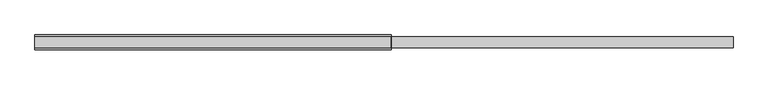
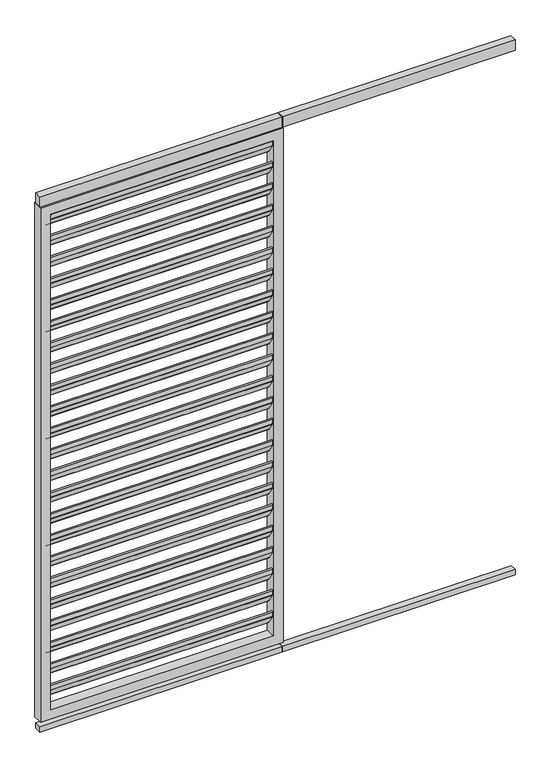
"""IFC4 building model written with IfcOpenShell, lengths in millimetres: proxy geometry, Renson_Camargue_Loggia_Paro_Aluminium : Renson_Camargue_Loggia_Paro_Aluminium."""

from ifc_helpers import new_model, si_unit, point, frame, frame_2d, origin, origin_with_axes, place, context, project, spatial, polyline, circle_curve, trimmed, segment, composite_curve, outline, extrude, source, transform, mapped, element, save


def generic_models_8f5adf67(model_context):
    return source(origin(), model_context, "Body", "SweptSolid", [
        extrude(outline(composite_curve([segment(polyline([(-10.1515804, 2164.292689), (14.3324079, 2126.5906532), (14.3324079, 2107.3412281)]), True, "CONTINUOUS"), segment(trimmed(circle_curve(frame_2d((11.3324079, 2107.3412281)), 3.0), [point((14.3324079, 2107.3412281))], [point((8.8163962, 2105.707311))], False, "CARTESIAN"), True, "CONTINUOUS"), segment(polyline([(8.8163962, 2105.707311), (-15.1836038, 2142.6640702)]), True, "CONTINUOUS"), segment(trimmed(circle_curve(frame_2d((-12.6675921, 2144.2979873)), 3.0), [point((-15.1836038, 2142.6640702))], [point((-15.6675921, 2144.2979873))], False, "CARTESIAN"), True, "CONTINUOUS"), segment(polyline([(-15.6675921, 2144.2979873), (-15.6675921, 2162.6587719)]), True, "CONTINUOUS"), segment(trimmed(circle_curve(frame_2d((-12.6675921, 2162.6587719)), 3.0), [point((-15.6675921, 2162.6587719))], [point((-10.1515804, 2164.292689))], False, "CARTESIAN"), True, "CONTINUOUS")], self_intersect=False)), frame((-442.5, 0.0, 0.0), z_axis=(1.0, 0.0, 0.0), x_axis=(0.0, 1.0, 0.0)), (0.0, 0.0, 1.0), 885.0),
        extrude(outline(composite_curve([segment(polyline([(-10.1515804, 2074.292689), (14.3324079, 2036.5906532), (14.3324079, 2017.3412281)]), True, "CONTINUOUS"), segment(trimmed(circle_curve(frame_2d((11.3324079, 2017.3412281)), 3.0), [point((14.3324079, 2017.3412281))], [point((8.8163962, 2015.707311))], False, "CARTESIAN"), True, "CONTINUOUS"), segment(polyline([(8.8163962, 2015.707311), (-15.1836038, 2052.6640702)]), True, "CONTINUOUS"), segment(trimmed(circle_curve(frame_2d((-12.6675921, 2054.2979873)), 3.0), [point((-15.1836038, 2052.6640702))], [point((-15.6675921, 2054.2979873))], False, "CARTESIAN"), True, "CONTINUOUS"), segment(polyline([(-15.6675921, 2054.2979873), (-15.6675921, 2072.6587719)]), True, "CONTINUOUS"), segment(trimmed(circle_curve(frame_2d((-12.6675921, 2072.6587719)), 3.0), [point((-15.6675921, 2072.6587719))], [point((-10.1515804, 2074.292689))], False, "CARTESIAN"), True, "CONTINUOUS")], self_intersect=False)), frame((-442.5, 0.0, 0.0), z_axis=(1.0, 0.0, 0.0), x_axis=(0.0, 1.0, 0.0)), (0.0, 0.0, 1.0), 885.0),
        extrude(outline(composite_curve([segment(polyline([(-10.1515804, 1984.292689), (14.3324079, 1946.5906532), (14.3324079, 1927.3412281)]), True, "CONTINUOUS"), segment(trimmed(circle_curve(frame_2d((11.3324079, 1927.3412281)), 3.0), [point((14.3324079, 1927.3412281))], [point((8.8163962, 1925.707311))], False, "CARTESIAN"), True, "CONTINUOUS"), segment(polyline([(8.8163962, 1925.707311), (-15.1836038, 1962.6640702)]), True, "CONTINUOUS"), segment(trimmed(circle_curve(frame_2d((-12.6675921, 1964.2979873)), 3.0), [point((-15.1836038, 1962.6640702))], [point((-15.6675921, 1964.2979873))], False, "CARTESIAN"), True, "CONTINUOUS"), segment(polyline([(-15.6675921, 1964.2979873), (-15.6675921, 1982.6587719)]), True, "CONTINUOUS"), segment(trimmed(circle_curve(frame_2d((-12.6675921, 1982.6587719)), 3.0), [point((-15.6675921, 1982.6587719))], [point((-10.1515804, 1984.292689))], False, "CARTESIAN"), True, "CONTINUOUS")], self_intersect=False)), frame((-442.5, 0.0, 0.0), z_axis=(1.0, 0.0, 0.0), x_axis=(0.0, 1.0, 0.0)), (0.0, 0.0, 1.0), 885.0),
        extrude(outline(composite_curve([segment(polyline([(-10.1515804, 1894.292689), (14.3324079, 1856.5906532), (14.3324079, 1837.3412281)]), True, "CONTINUOUS"), segment(trimmed(circle_curve(frame_2d((11.3324079, 1837.3412281)), 3.0), [point((14.3324079, 1837.3412281))], [point((8.8163962, 1835.707311))], False, "CARTESIAN"), True, "CONTINUOUS"), segment(polyline([(8.8163962, 1835.707311), (-15.1836038, 1872.6640702)]), True, "CONTINUOUS"), segment(trimmed(circle_curve(frame_2d((-12.6675921, 1874.2979873)), 3.0), [point((-15.1836038, 1872.6640702))], [point((-15.6675921, 1874.2979873))], False, "CARTESIAN"), True, "CONTINUOUS"), segment(polyline([(-15.6675921, 1874.2979873), (-15.6675921, 1892.6587719)]), True, "CONTINUOUS"), segment(trimmed(circle_curve(frame_2d((-12.6675921, 1892.6587719)), 3.0), [point((-15.6675921, 1892.6587719))], [point((-10.1515804, 1894.292689))], False, "CARTESIAN"), True, "CONTINUOUS")], self_intersect=False)), frame((-442.5, 0.0, 0.0), z_axis=(1.0, 0.0, 0.0), x_axis=(0.0, 1.0, 0.0)), (0.0, 0.0, 1.0), 885.0),
        extrude(outline(composite_curve([segment(polyline([(-10.1515804, 1804.292689), (14.3324079, 1766.5906532), (14.3324079, 1747.3412281)]), True, "CONTINUOUS"), segment(trimmed(circle_curve(frame_2d((11.3324079, 1747.3412281)), 3.0), [point((14.3324079, 1747.3412281))], [point((8.8163962, 1745.707311))], False, "CARTESIAN"), True, "CONTINUOUS"), segment(polyline([(8.8163962, 1745.707311), (-15.1836038, 1782.6640702)]), True, "CONTINUOUS"), segment(trimmed(circle_curve(frame_2d((-12.6675921, 1784.2979873)), 3.0), [point((-15.1836038, 1782.6640702))], [point((-15.6675921, 1784.2979873))], False, "CARTESIAN"), True, "CONTINUOUS"), segment(polyline([(-15.6675921, 1784.2979873), (-15.6675921, 1802.6587719)]), True, "CONTINUOUS"), segment(trimmed(circle_curve(frame_2d((-12.6675921, 1802.6587719)), 3.0), [point((-15.6675921, 1802.6587719))], [point((-10.1515804, 1804.292689))], False, "CARTESIAN"), True, "CONTINUOUS")], self_intersect=False)), frame((-442.5, 0.0, 0.0), z_axis=(1.0, 0.0, 0.0), x_axis=(0.0, 1.0, 0.0)), (0.0, 0.0, 1.0), 885.0),
        extrude(outline(composite_curve([segment(polyline([(-10.1515804, 1714.292689), (14.3324079, 1676.5906532), (14.3324079, 1657.3412281)]), True, "CONTINUOUS"), segment(trimmed(circle_curve(frame_2d((11.3324079, 1657.3412281)), 3.0), [point((14.3324079, 1657.3412281))], [point((8.8163962, 1655.707311))], False, "CARTESIAN"), True, "CONTINUOUS"), segment(polyline([(8.8163962, 1655.707311), (-15.1836038, 1692.6640702)]), True, "CONTINUOUS"), segment(trimmed(circle_curve(frame_2d((-12.6675921, 1694.2979873)), 3.0), [point((-15.1836038, 1692.6640702))], [point((-15.6675921, 1694.2979873))], False, "CARTESIAN"), True, "CONTINUOUS"), segment(polyline([(-15.6675921, 1694.2979873), (-15.6675921, 1712.6587719)]), True, "CONTINUOUS"), segment(trimmed(circle_curve(frame_2d((-12.6675921, 1712.6587719)), 3.0), [point((-15.6675921, 1712.6587719))], [point((-10.1515804, 1714.292689))], False, "CARTESIAN"), True, "CONTINUOUS")], self_intersect=False)), frame((-442.5, 0.0, 0.0), z_axis=(1.0, 0.0, 0.0), x_axis=(0.0, 1.0, 0.0)), (0.0, 0.0, 1.0), 885.0),
        extrude(outline(composite_curve([segment(polyline([(-10.1515804, 1624.292689), (14.3324079, 1586.5906532), (14.3324079, 1567.3412281)]), True, "CONTINUOUS"), segment(trimmed(circle_curve(frame_2d((11.3324079, 1567.3412281)), 3.0), [point((14.3324079, 1567.3412281))], [point((8.8163962, 1565.707311))], False, "CARTESIAN"), True, "CONTINUOUS"), segment(polyline([(8.8163962, 1565.707311), (-15.1836038, 1602.6640702)]), True, "CONTINUOUS"), segment(trimmed(circle_curve(frame_2d((-12.6675921, 1604.2979873)), 3.0), [point((-15.1836038, 1602.6640702))], [point((-15.6675921, 1604.2979873))], False, "CARTESIAN"), True, "CONTINUOUS"), segment(polyline([(-15.6675921, 1604.2979873), (-15.6675921, 1622.6587719)]), True, "CONTINUOUS"), segment(trimmed(circle_curve(frame_2d((-12.6675921, 1622.6587719)), 3.0), [point((-15.6675921, 1622.6587719))], [point((-10.1515804, 1624.292689))], False, "CARTESIAN"), True, "CONTINUOUS")], self_intersect=False)), frame((-442.5, 0.0, 0.0), z_axis=(1.0, 0.0, 0.0), x_axis=(0.0, 1.0, 0.0)), (0.0, 0.0, 1.0), 885.0),
        extrude(outline(composite_curve([segment(polyline([(-10.1515804, 1534.292689), (14.3324079, 1496.5906532), (14.3324079, 1477.3412281)]), True, "CONTINUOUS"), segment(trimmed(circle_curve(frame_2d((11.3324079, 1477.3412281)), 3.0), [point((14.3324079, 1477.3412281))], [point((8.8163962, 1475.707311))], False, "CARTESIAN"), True, "CONTINUOUS"), segment(polyline([(8.8163962, 1475.707311), (-15.1836038, 1512.6640702)]), True, "CONTINUOUS"), segment(trimmed(circle_curve(frame_2d((-12.6675921, 1514.2979873)), 3.0), [point((-15.1836038, 1512.6640702))], [point((-15.6675921, 1514.2979873))], False, "CARTESIAN"), True, "CONTINUOUS"), segment(polyline([(-15.6675921, 1514.2979873), (-15.6675921, 1532.6587719)]), True, "CONTINUOUS"), segment(trimmed(circle_curve(frame_2d((-12.6675921, 1532.6587719)), 3.0), [point((-15.6675921, 1532.6587719))], [point((-10.1515804, 1534.292689))], False, "CARTESIAN"), True, "CONTINUOUS")], self_intersect=False)), frame((-442.5, 0.0, 0.0), z_axis=(1.0, 0.0, 0.0), x_axis=(0.0, 1.0, 0.0)), (0.0, 0.0, 1.0), 885.0),
        extrude(outline(composite_curve([segment(polyline([(-10.1515804, 1444.292689), (14.3324079, 1406.5906532), (14.3324079, 1387.3412281)]), True, "CONTINUOUS"), segment(trimmed(circle_curve(frame_2d((11.3324079, 1387.3412281)), 3.0), [point((14.3324079, 1387.3412281))], [point((8.8163962, 1385.707311))], False, "CARTESIAN"), True, "CONTINUOUS"), segment(polyline([(8.8163962, 1385.707311), (-15.1836038, 1422.6640702)]), True, "CONTINUOUS"), segment(trimmed(circle_curve(frame_2d((-12.6675921, 1424.2979873)), 3.0), [point((-15.1836038, 1422.6640702))], [point((-15.6675921, 1424.2979873))], False, "CARTESIAN"), True, "CONTINUOUS"), segment(polyline([(-15.6675921, 1424.2979873), (-15.6675921, 1442.6587719)]), True, "CONTINUOUS"), segment(trimmed(circle_curve(frame_2d((-12.6675921, 1442.6587719)), 3.0), [point((-15.6675921, 1442.6587719))], [point((-10.1515804, 1444.292689))], False, "CARTESIAN"), True, "CONTINUOUS")], self_intersect=False)), frame((-442.5, 0.0, 0.0), z_axis=(1.0, 0.0, 0.0), x_axis=(0.0, 1.0, 0.0)), (0.0, 0.0, 1.0), 885.0),
        extrude(outline(composite_curve([segment(polyline([(-10.1515804, 1354.292689), (14.3324079, 1316.5906532), (14.3324079, 1297.3412281)]), True, "CONTINUOUS"), segment(trimmed(circle_curve(frame_2d((11.3324079, 1297.3412281)), 3.0), [point((14.3324079, 1297.3412281))], [point((8.8163962, 1295.707311))], False, "CARTESIAN"), True, "CONTINUOUS"), segment(polyline([(8.8163962, 1295.707311), (-15.1836038, 1332.6640702)]), True, "CONTINUOUS"), segment(trimmed(circle_curve(frame_2d((-12.6675921, 1334.2979873)), 3.0), [point((-15.1836038, 1332.6640702))], [point((-15.6675921, 1334.2979873))], False, "CARTESIAN"), True, "CONTINUOUS"), segment(polyline([(-15.6675921, 1334.2979873), (-15.6675921, 1352.6587719)]), True, "CONTINUOUS"), segment(trimmed(circle_curve(frame_2d((-12.6675921, 1352.6587719)), 3.0), [point((-15.6675921, 1352.6587719))], [point((-10.1515804, 1354.292689))], False, "CARTESIAN"), True, "CONTINUOUS")], self_intersect=False)), frame((-442.5, 0.0, 0.0), z_axis=(1.0, 0.0, 0.0), x_axis=(0.0, 1.0, 0.0)), (0.0, 0.0, 1.0), 885.0),
        extrude(outline(composite_curve([segment(polyline([(-10.1515804, 1264.292689), (14.3324079, 1226.5906532), (14.3324079, 1207.3412281)]), True, "CONTINUOUS"), segment(trimmed(circle_curve(frame_2d((11.3324079, 1207.3412281)), 3.0), [point((14.3324079, 1207.3412281))], [point((8.8163962, 1205.707311))], False, "CARTESIAN"), True, "CONTINUOUS"), segment(polyline([(8.8163962, 1205.707311), (-15.1836038, 1242.6640702)]), True, "CONTINUOUS"), segment(trimmed(circle_curve(frame_2d((-12.6675921, 1244.2979873)), 3.0), [point((-15.1836038, 1242.6640702))], [point((-15.6675921, 1244.2979873))], False, "CARTESIAN"), True, "CONTINUOUS"), segment(polyline([(-15.6675921, 1244.2979873), (-15.6675921, 1262.6587719)]), True, "CONTINUOUS"), segment(trimmed(circle_curve(frame_2d((-12.6675921, 1262.6587719)), 3.0), [point((-15.6675921, 1262.6587719))], [point((-10.1515804, 1264.292689))], False, "CARTESIAN"), True, "CONTINUOUS")], self_intersect=False)), frame((-442.5, 0.0, 0.0), z_axis=(1.0, 0.0, 0.0), x_axis=(0.0, 1.0, 0.0)), (0.0, 0.0, 1.0), 885.0),
        extrude(outline(composite_curve([segment(polyline([(-10.1515804, 1174.292689), (14.3324079, 1136.5906532), (14.3324079, 1117.3412281)]), True, "CONTINUOUS"), segment(trimmed(circle_curve(frame_2d((11.3324079, 1117.3412281)), 3.0), [point((14.3324079, 1117.3412281))], [point((8.8163962, 1115.707311))], False, "CARTESIAN"), True, "CONTINUOUS"), segment(polyline([(8.8163962, 1115.707311), (-15.1836038, 1152.6640702)]), True, "CONTINUOUS"), segment(trimmed(circle_curve(frame_2d((-12.6675921, 1154.2979873)), 3.0), [point((-15.1836038, 1152.6640702))], [point((-15.6675921, 1154.2979873))], False, "CARTESIAN"), True, "CONTINUOUS"), segment(polyline([(-15.6675921, 1154.2979873), (-15.6675921, 1172.6587719)]), True, "CONTINUOUS"), segment(trimmed(circle_curve(frame_2d((-12.6675921, 1172.6587719)), 3.0), [point((-15.6675921, 1172.6587719))], [point((-10.1515804, 1174.292689))], False, "CARTESIAN"), True, "CONTINUOUS")], self_intersect=False)), frame((-442.5, 0.0, 0.0), z_axis=(1.0, 0.0, 0.0), x_axis=(0.0, 1.0, 0.0)), (0.0, 0.0, 1.0), 885.0),
        extrude(outline(composite_curve([segment(polyline([(-10.1515804, 1084.292689), (14.3324079, 1046.5906532), (14.3324079, 1027.3412281)]), True, "CONTINUOUS"), segment(trimmed(circle_curve(frame_2d((11.3324079, 1027.3412281)), 3.0), [point((14.3324079, 1027.3412281))], [point((8.8163962, 1025.707311))], False, "CARTESIAN"), True, "CONTINUOUS"), segment(polyline([(8.8163962, 1025.707311), (-15.1836038, 1062.6640702)]), True, "CONTINUOUS"), segment(trimmed(circle_curve(frame_2d((-12.6675921, 1064.2979873)), 3.0), [point((-15.1836038, 1062.6640702))], [point((-15.6675921, 1064.2979873))], False, "CARTESIAN"), True, "CONTINUOUS"), segment(polyline([(-15.6675921, 1064.2979873), (-15.6675921, 1082.6587719)]), True, "CONTINUOUS"), segment(trimmed(circle_curve(frame_2d((-12.6675921, 1082.6587719)), 3.0), [point((-15.6675921, 1082.6587719))], [point((-10.1515804, 1084.292689))], False, "CARTESIAN"), True, "CONTINUOUS")], self_intersect=False)), frame((-442.5, 0.0, 0.0), z_axis=(1.0, 0.0, 0.0), x_axis=(0.0, 1.0, 0.0)), (0.0, 0.0, 1.0), 885.0),
        extrude(outline(composite_curve([segment(polyline([(-10.1515804, 994.292689), (14.3324079, 956.5906532), (14.3324079, 937.3412281)]), True, "CONTINUOUS"), segment(trimmed(circle_curve(frame_2d((11.3324079, 937.3412281)), 3.0), [point((14.3324079, 937.3412281))], [point((8.8163962, 935.707311))], False, "CARTESIAN"), True, "CONTINUOUS"), segment(polyline([(8.8163962, 935.707311), (-15.1836038, 972.6640702)]), True, "CONTINUOUS"), segment(trimmed(circle_curve(frame_2d((-12.6675921, 974.2979873)), 3.0), [point((-15.1836038, 972.6640702))], [point((-15.6675921, 974.2979873))], False, "CARTESIAN"), True, "CONTINUOUS"), segment(polyline([(-15.6675921, 974.2979873), (-15.6675921, 992.6587719)]), True, "CONTINUOUS"), segment(trimmed(circle_curve(frame_2d((-12.6675921, 992.6587719)), 3.0), [point((-15.6675921, 992.6587719))], [point((-10.1515804, 994.292689))], False, "CARTESIAN"), True, "CONTINUOUS")], self_intersect=False)), frame((-442.5, 0.0, 0.0), z_axis=(1.0, 0.0, 0.0), x_axis=(0.0, 1.0, 0.0)), (0.0, 0.0, 1.0), 885.0),
        extrude(outline(composite_curve([segment(polyline([(-10.1515804, 904.292689), (14.3324079, 866.5906532), (14.3324079, 847.3412281)]), True, "CONTINUOUS"), segment(trimmed(circle_curve(frame_2d((11.3324079, 847.3412281)), 3.0), [point((14.3324079, 847.3412281))], [point((8.8163962, 845.707311))], False, "CARTESIAN"), True, "CONTINUOUS"), segment(polyline([(8.8163962, 845.707311), (-15.1836038, 882.6640702)]), True, "CONTINUOUS"), segment(trimmed(circle_curve(frame_2d((-12.6675921, 884.2979873)), 3.0), [point((-15.1836038, 882.6640702))], [point((-15.6675921, 884.2979873))], False, "CARTESIAN"), True, "CONTINUOUS"), segment(polyline([(-15.6675921, 884.2979873), (-15.6675921, 902.6587719)]), True, "CONTINUOUS"), segment(trimmed(circle_curve(frame_2d((-12.6675921, 902.6587719)), 3.0), [point((-15.6675921, 902.6587719))], [point((-10.1515804, 904.292689))], False, "CARTESIAN"), True, "CONTINUOUS")], self_intersect=False)), frame((-442.5, 0.0, 0.0), z_axis=(1.0, 0.0, 0.0), x_axis=(0.0, 1.0, 0.0)), (0.0, 0.0, 1.0), 885.0),
        extrude(outline(composite_curve([segment(polyline([(-10.1515804, 814.292689), (14.3324079, 776.5906532), (14.3324079, 757.3412281)]), True, "CONTINUOUS"), segment(trimmed(circle_curve(frame_2d((11.3324079, 757.3412281)), 3.0), [point((14.3324079, 757.3412281))], [point((8.8163962, 755.707311))], False, "CARTESIAN"), True, "CONTINUOUS"), segment(polyline([(8.8163962, 755.707311), (-15.1836038, 792.6640702)]), True, "CONTINUOUS"), segment(trimmed(circle_curve(frame_2d((-12.6675921, 794.2979873)), 3.0), [point((-15.1836038, 792.6640702))], [point((-15.6675921, 794.2979873))], False, "CARTESIAN"), True, "CONTINUOUS"), segment(polyline([(-15.6675921, 794.2979873), (-15.6675921, 812.6587719)]), True, "CONTINUOUS"), segment(trimmed(circle_curve(frame_2d((-12.6675921, 812.6587719)), 3.0), [point((-15.6675921, 812.6587719))], [point((-10.1515804, 814.292689))], False, "CARTESIAN"), True, "CONTINUOUS")], self_intersect=False)), frame((-442.5, 0.0, 0.0), z_axis=(1.0, 0.0, 0.0), x_axis=(0.0, 1.0, 0.0)), (0.0, 0.0, 1.0), 885.0),
        extrude(outline(composite_curve([segment(polyline([(-10.1515804, 724.292689), (14.3324079, 686.5906532), (14.3324079, 667.3412281)]), True, "CONTINUOUS"), segment(trimmed(circle_curve(frame_2d((11.3324079, 667.3412281)), 3.0), [point((14.3324079, 667.3412281))], [point((8.8163962, 665.707311))], False, "CARTESIAN"), True, "CONTINUOUS"), segment(polyline([(8.8163962, 665.707311), (-15.1836038, 702.6640702)]), True, "CONTINUOUS"), segment(trimmed(circle_curve(frame_2d((-12.6675921, 704.2979873)), 3.0), [point((-15.1836038, 702.6640702))], [point((-15.6675921, 704.2979873))], False, "CARTESIAN"), True, "CONTINUOUS"), segment(polyline([(-15.6675921, 704.2979873), (-15.6675921, 722.6587719)]), True, "CONTINUOUS"), segment(trimmed(circle_curve(frame_2d((-12.6675921, 722.6587719)), 3.0), [point((-15.6675921, 722.6587719))], [point((-10.1515804, 724.292689))], False, "CARTESIAN"), True, "CONTINUOUS")], self_intersect=False)), frame((-442.5, 0.0, 0.0), z_axis=(1.0, 0.0, 0.0), x_axis=(0.0, 1.0, 0.0)), (0.0, 0.0, 1.0), 885.0),
        extrude(outline(composite_curve([segment(polyline([(-10.1515804, 634.292689), (14.3324079, 596.5906532), (14.3324079, 577.3412281)]), True, "CONTINUOUS"), segment(trimmed(circle_curve(frame_2d((11.3324079, 577.3412281)), 3.0), [point((14.3324079, 577.3412281))], [point((8.8163962, 575.707311))], False, "CARTESIAN"), True, "CONTINUOUS"), segment(polyline([(8.8163962, 575.707311), (-15.1836038, 612.6640702)]), True, "CONTINUOUS"), segment(trimmed(circle_curve(frame_2d((-12.6675921, 614.2979873)), 3.0), [point((-15.1836038, 612.6640702))], [point((-15.6675921, 614.2979873))], False, "CARTESIAN"), True, "CONTINUOUS"), segment(polyline([(-15.6675921, 614.2979873), (-15.6675921, 632.6587719)]), True, "CONTINUOUS"), segment(trimmed(circle_curve(frame_2d((-12.6675921, 632.6587719)), 3.0), [point((-15.6675921, 632.6587719))], [point((-10.1515804, 634.292689))], False, "CARTESIAN"), True, "CONTINUOUS")], self_intersect=False)), frame((-442.5, 0.0, 0.0), z_axis=(1.0, 0.0, 0.0), x_axis=(0.0, 1.0, 0.0)), (0.0, 0.0, 1.0), 885.0),
        extrude(outline(composite_curve([segment(polyline([(-10.1515804, 544.292689), (14.3324079, 506.5906532), (14.3324079, 487.3412281)]), True, "CONTINUOUS"), segment(trimmed(circle_curve(frame_2d((11.3324079, 487.3412281)), 3.0), [point((14.3324079, 487.3412281))], [point((8.8163962, 485.707311))], False, "CARTESIAN"), True, "CONTINUOUS"), segment(polyline([(8.8163962, 485.707311), (-15.1836038, 522.6640702)]), True, "CONTINUOUS"), segment(trimmed(circle_curve(frame_2d((-12.6675921, 524.2979873)), 3.0), [point((-15.1836038, 522.6640702))], [point((-15.6675921, 524.2979873))], False, "CARTESIAN"), True, "CONTINUOUS"), segment(polyline([(-15.6675921, 524.2979873), (-15.6675921, 542.6587719)]), True, "CONTINUOUS"), segment(trimmed(circle_curve(frame_2d((-12.6675921, 542.6587719)), 3.0), [point((-15.6675921, 542.6587719))], [point((-10.1515804, 544.292689))], False, "CARTESIAN"), True, "CONTINUOUS")], self_intersect=False)), frame((-442.5, 0.0, 0.0), z_axis=(1.0, 0.0, 0.0), x_axis=(0.0, 1.0, 0.0)), (0.0, 0.0, 1.0), 885.0),
        extrude(outline(composite_curve([segment(polyline([(-10.1515804, 454.292689), (14.3324079, 416.5906532), (14.3324079, 397.3412281)]), True, "CONTINUOUS"), segment(trimmed(circle_curve(frame_2d((11.3324079, 397.3412281)), 3.0), [point((14.3324079, 397.3412281))], [point((8.8163962, 395.707311))], False, "CARTESIAN"), True, "CONTINUOUS"), segment(polyline([(8.8163962, 395.707311), (-15.1836038, 432.6640702)]), True, "CONTINUOUS"), segment(trimmed(circle_curve(frame_2d((-12.6675921, 434.2979873)), 3.0), [point((-15.1836038, 432.6640702))], [point((-15.6675921, 434.2979873))], False, "CARTESIAN"), True, "CONTINUOUS"), segment(polyline([(-15.6675921, 434.2979873), (-15.6675921, 452.6587719)]), True, "CONTINUOUS"), segment(trimmed(circle_curve(frame_2d((-12.6675921, 452.6587719)), 3.0), [point((-15.6675921, 452.6587719))], [point((-10.1515804, 454.292689))], False, "CARTESIAN"), True, "CONTINUOUS")], self_intersect=False)), frame((-442.5, 0.0, 0.0), z_axis=(1.0, 0.0, 0.0), x_axis=(0.0, 1.0, 0.0)), (0.0, 0.0, 1.0), 885.0),
        extrude(outline(composite_curve([segment(polyline([(-10.1515804, 364.292689), (14.3324079, 326.5906532), (14.3324079, 307.3412281)]), True, "CONTINUOUS"), segment(trimmed(circle_curve(frame_2d((11.3324079, 307.3412281)), 3.0), [point((14.3324079, 307.3412281))], [point((8.8163962, 305.707311))], False, "CARTESIAN"), True, "CONTINUOUS"), segment(polyline([(8.8163962, 305.707311), (-15.1836038, 342.6640702)]), True, "CONTINUOUS"), segment(trimmed(circle_curve(frame_2d((-12.6675921, 344.2979873)), 3.0), [point((-15.1836038, 342.6640702))], [point((-15.6675921, 344.2979873))], False, "CARTESIAN"), True, "CONTINUOUS"), segment(polyline([(-15.6675921, 344.2979873), (-15.6675921, 362.6587719)]), True, "CONTINUOUS"), segment(trimmed(circle_curve(frame_2d((-12.6675921, 362.6587719)), 3.0), [point((-15.6675921, 362.6587719))], [point((-10.1515804, 364.292689))], False, "CARTESIAN"), True, "CONTINUOUS")], self_intersect=False)), frame((-442.5, 0.0, 0.0), z_axis=(1.0, 0.0, 0.0), x_axis=(0.0, 1.0, 0.0)), (0.0, 0.0, 1.0), 885.0),
        extrude(outline(composite_curve([segment(polyline([(-10.1515804, 274.292689), (14.3324079, 236.5906532), (14.3324079, 217.3412281)]), True, "CONTINUOUS"), segment(trimmed(circle_curve(frame_2d((11.3324079, 217.3412281)), 3.0), [point((14.3324079, 217.3412281))], [point((8.8163962, 215.707311))], False, "CARTESIAN"), True, "CONTINUOUS"), segment(polyline([(8.8163962, 215.707311), (-15.1836038, 252.6640702)]), True, "CONTINUOUS"), segment(trimmed(circle_curve(frame_2d((-12.6675921, 254.2979873)), 3.0), [point((-15.1836038, 252.6640702))], [point((-15.6675921, 254.2979873))], False, "CARTESIAN"), True, "CONTINUOUS"), segment(polyline([(-15.6675921, 254.2979873), (-15.6675921, 272.6587719)]), True, "CONTINUOUS"), segment(trimmed(circle_curve(frame_2d((-12.6675921, 272.6587719)), 3.0), [point((-15.6675921, 272.6587719))], [point((-10.1515804, 274.292689))], False, "CARTESIAN"), True, "CONTINUOUS")], self_intersect=False)), frame((-442.5, 0.0, 0.0), z_axis=(1.0, 0.0, 0.0), x_axis=(0.0, 1.0, 0.0)), (0.0, 0.0, 1.0), 885.0),
        extrude(outline(composite_curve([segment(polyline([(-10.1515804, 184.292689), (14.3324079, 146.5906532), (14.3324079, 127.3412281)]), True, "CONTINUOUS"), segment(trimmed(circle_curve(frame_2d((11.3324079, 127.3412281)), 3.0), [point((14.3324079, 127.3412281))], [point((8.8163962, 125.707311))], False, "CARTESIAN"), True, "CONTINUOUS"), segment(polyline([(8.8163962, 125.707311), (-15.1836038, 162.6640702)]), True, "CONTINUOUS"), segment(trimmed(circle_curve(frame_2d((-12.6675921, 164.2979873)), 3.0), [point((-15.1836038, 162.6640702))], [point((-15.6675921, 164.2979873))], False, "CARTESIAN"), True, "CONTINUOUS"), segment(polyline([(-15.6675921, 164.2979873), (-15.6675921, 182.6587719)]), True, "CONTINUOUS"), segment(trimmed(circle_curve(frame_2d((-12.6675921, 182.6587719)), 3.0), [point((-15.6675921, 182.6587719))], [point((-10.1515804, 184.292689))], False, "CARTESIAN"), True, "CONTINUOUS")], self_intersect=False)), frame((-442.5, 0.0, 0.0), z_axis=(1.0, 0.0, 0.0), x_axis=(0.0, 1.0, 0.0)), (0.0, 0.0, 1.0), 885.0),
        extrude(outline(polyline([(482.5, -15.0), (481.5, -15.0), (481.5, 15.0), (482.5, 15.0), (482.5, -15.0)])), frame((0.0, 0.0, 2207.7138321), z_axis=(0.0, 0.0, 1.0), x_axis=(1.0, 0.0, 0.0)), (0.0, 0.0, 1.0), 42.2861679),
        extrude(outline(polyline([(1407.5, -15.0), (-482.5, -15.0), (-482.5, 15.0), (1407.5, 15.0), (1407.5, -15.0)])), frame((0.0, 0.0, 2207.7138321), z_axis=(0.0, 0.0, 1.0), x_axis=(1.0, 0.0, 0.0)), (0.0, 0.0, 1.0), 42.2861679),
        extrude(outline(polyline([(482.5, 13.0), (482.5, -14.0), (481.5, -14.0), (481.5, 13.0), (482.5, 13.0)])), origin_with_axes(), (0.0, 0.0, 1.0), 23.0),
        extrude(outline(polyline([(1407.5, 13.0), (1407.5, -14.0), (-482.5, -14.0), (-482.5, 13.0), (1407.5, 13.0)])), origin_with_axes(), (0.0, 0.0, 1.0), 23.0),
        extrude(outline(polyline([(2207.7138321, 482.5), (2207.7138321, -482.5), (45.0, -482.5), (45.0, 482.5), (2207.7138321, 482.5)]), holes=[polyline([(2167.7138321, -442.5), (2167.7138321, 442.5), (85.0, 442.5), (85.0, -442.5), (2167.7138321, -442.5)])]), frame((0.0, -20.0, 0.0), z_axis=(0.0, 1.0, 0.0), x_axis=(0.0, 0.0, 1.0)), (0.0, 0.0, 1.0), 40.0),
    ])


if __name__ == "__main__":
    model = new_model("IFC4")
    model_context = context("Model", 3, world=origin())
    ifc_project = project(units=[si_unit("LENGTHUNIT", "METRE", prefix="MILLI")], contexts=[model_context])
    site = spatial("IfcSite", under=ifc_project)
    building = spatial("IfcBuilding", under=site)
    placement = place(None, origin())
    generic_models_shape = generic_models_8f5adf67(model_context)
    element("IfcBuildingElementProxy", 1, Name="Renson_Camargue_Loggia_Paro_Aluminium : Renson_Camargue_Loggia_Paro_Aluminium", ObjectType="Renson_Camargue_Loggia_Paro_Aluminium : Renson_Camargue_Loggia_Paro_Aluminium", at=placement, inside=building, context=model_context, shape_type="MappedRepresentation", body=[
        mapped(generic_models_shape, transform((0.0, 0.0, 0.0), x_axis=(1.0, 0.0, 0.0), y_axis=(0.0, 1.0, 0.0), z_axis=(0.0, 0.0, 1.0))),
    ])
    save(model, "model.ifc")
